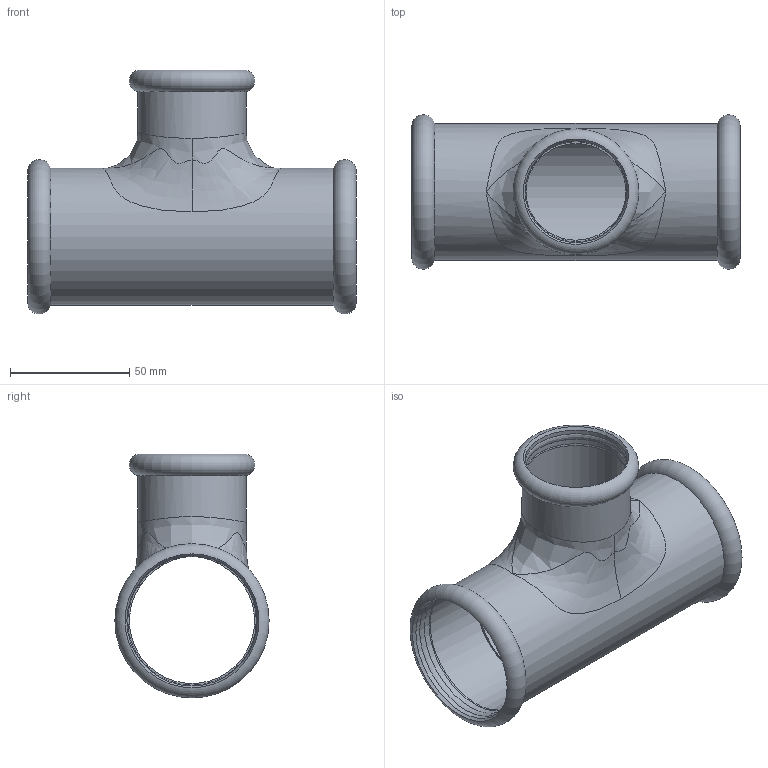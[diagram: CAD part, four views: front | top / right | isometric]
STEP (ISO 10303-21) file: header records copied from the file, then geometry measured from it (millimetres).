
FILE_DESCRIPTION(/* description */ ('TEE RIDOTTO STEELPRES 54-42-54 idroformato'),/* implementation_level */ '2;1');
FILE_NAME(/* name */ 'C:\Users\Vault\Desktop\392_STEELPRES\392054042_Steelpres.stp',/* time_stamp */ '2022-10-24T15:04:53+02:00',/* author */ ('Vault'),/* organization */ ('Raccorderie metalliche s.p.a. '),/* preprocessor_version */ 'ST-DEVELOPER v18.1',/* originating_system */ 'Autodesk Inventor 2020',/* authorisation */ 'Raccorderie metalliche s.p.a. ');
FILE_SCHEMA (('AUTOMOTIVE_DESIGN { 1 0 10303 214 3 1 1 }'));
Length unit declared in the file: millimetre
Products named in the file (1): 392054042I_Steelpres
Bounding box: 138 x 64.76 x 102.38 mm (x, y, z)
Volume: 67149.7 mm3; surface area: 60419.1 mm2
Topology: 1 solids, 1 shells, 39 faces, 135 edges, 94 vertices
Faces by surface type: cylinder 12, bspline 12, torus 9, plane 3, cone 3
Full cylindrical faces by diameter (mm): 42.4 x1, 42.7 x2, 45.4 x1, 54.5 x2, 54.7 x4, 57.5 x1
Entity records: 5629 total; most frequent: CARTESIAN_POINT 4477, ORIENTED_EDGE 262, DIRECTION 212, EDGE_CURVE 131, AXIS2_PLACEMENT_3D 99, VERTEX_POINT 94, CIRCLE 71, B_SPLINE_CURVE_WITH_KNOTS 46
